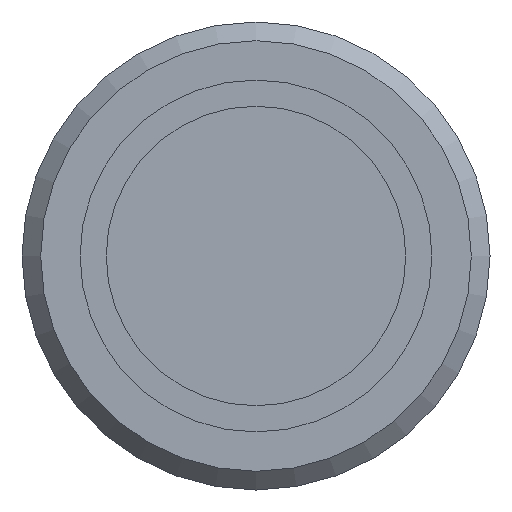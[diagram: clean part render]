
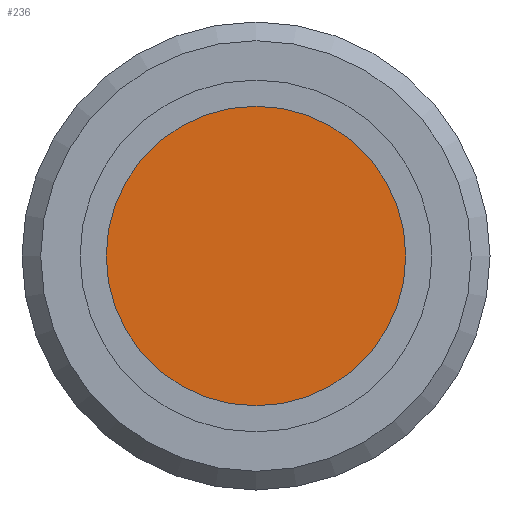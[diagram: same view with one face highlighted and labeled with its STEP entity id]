
A CAD part, left-side view. The second image highlights one B-rep face of the part: STEP entity #236.
In plain terms, the highlighted planar face has unit normal (-1, 0, 0).
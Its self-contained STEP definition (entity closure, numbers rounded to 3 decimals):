
#17=PLANE($,#272);
#57=FACE_OUTER_BOUND($,#85,.T.);
#85=EDGE_LOOP($,(#180));
#112=CIRCLE($,#271,1.016);
#131=VERTEX_POINT($,#403);
#150=EDGE_CURVE($,#131,#131,#112,.T.);
#180=ORIENTED_EDGE($,*,*,#150,.T.);
#236=ADVANCED_FACE($,(#57),#17,.T.);
#271=AXIS2_PLACEMENT_3D($,#404,#336,#337);
#272=AXIS2_PLACEMENT_3D($,#405,#338,#339);
#336=DIRECTION('center_axis',(-1.,0.,0.));
#337=DIRECTION('ref_axis',(0.,1.,0.));
#338=DIRECTION('center_axis',(-1.,0.,0.));
#339=DIRECTION('ref_axis',(0.,0.,1.));
#403=CARTESIAN_POINT('',(-18.003,4.829,0.));
#404=CARTESIAN_POINT('Origin',(-18.003,3.813,0.));
#405=CARTESIAN_POINT('Origin',(-18.003,4.321,0.));
